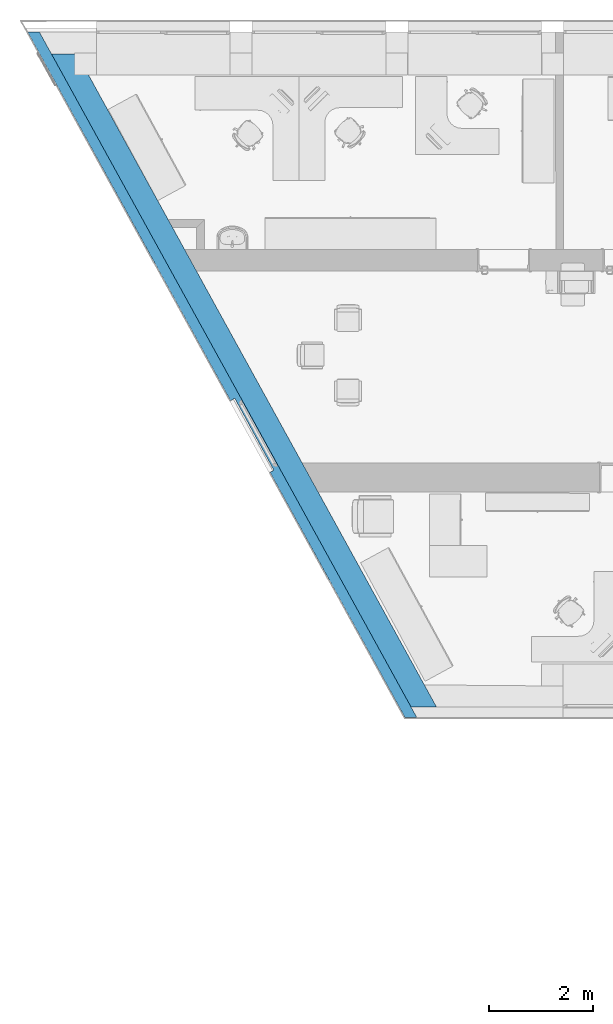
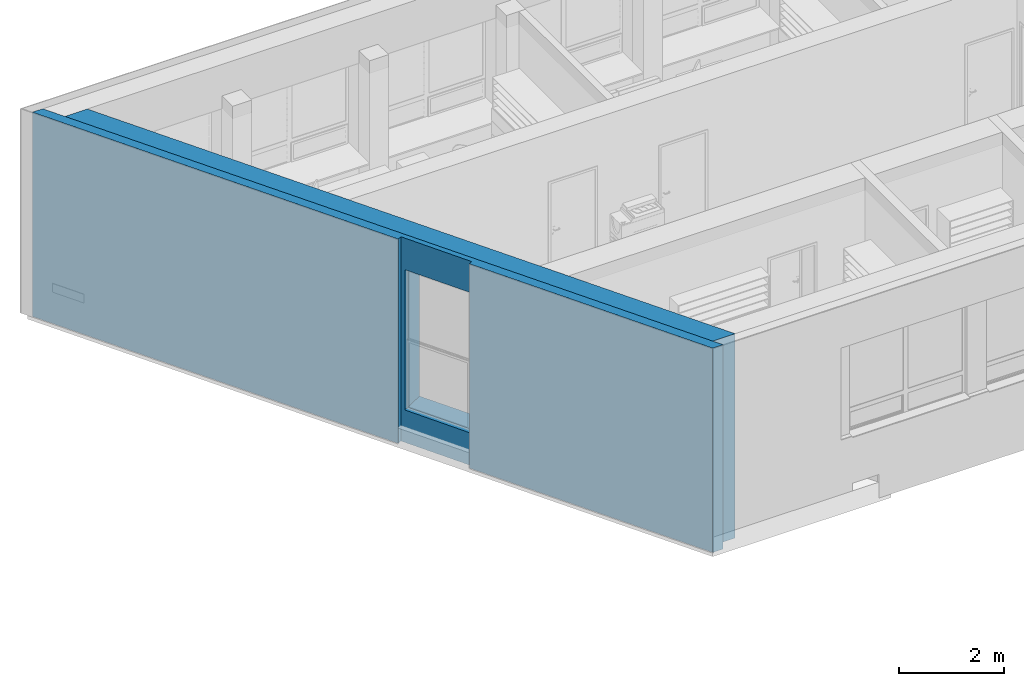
# One storey, part 103 of 194: 2 building element parts, 1 opening, 1 element without a shape of its own.
"""IFC2X3 building model written with IfcOpenShell, lengths in millimetres."""

from ifc_helpers import new_model, entity, si_unit, converted_unit, derived_unit, money_unit, direction, frame, origin_with_axes, origin_2d_with_axis, place, context, subcontext, project, spatial, polyline, rectangle, outline, extrude, boolean, faceted_brep, material, type_object, element, aggregate, save


model = new_model("IFC2X3")

# Units and contexts
model_context = context("Model", 3, precision=1e-05, world=origin_with_axes(), true_north=direction((0.0, 1.0)))
body_context = subcontext(model_context, "Body", "Model", "MODEL_VIEW")
ifc_project = project(units=[si_unit("LENGTHUNIT", "METRE", prefix="MILLI"), si_unit("AREAUNIT", "SQUARE_METRE"), si_unit("VOLUMEUNIT", "CUBIC_METRE"), converted_unit("PLANEANGLEUNIT", "DEGREE", entity("IfcPlaneAngleMeasure", 0.0174532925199), si_unit("PLANEANGLEUNIT", "RADIAN"), dimensions=[0, 0, 0, 0, 0, 0, 0]), si_unit("SOLIDANGLEUNIT", "STERADIAN"), money_unit("EUR"), converted_unit("TIMEUNIT", "Year", entity("IfcTimeMeasure", 31556926.0), si_unit("TIMEUNIT", "SECOND"), dimensions=[0, 0, 1, 0, 0, 0, 0]), si_unit("MASSUNIT", "GRAM", prefix="KILO"), si_unit("THERMODYNAMICTEMPERATUREUNIT", "DEGREE_CELSIUS"), si_unit("LUMINOUSINTENSITYUNIT", "LUMEN"), si_unit("ENERGYUNIT", "JOULE", prefix="MEGA"), derived_unit("THERMALCONDUCTANCEUNIT", [(si_unit("POWERUNIT", "WATT"), 1), (si_unit("LENGTHUNIT", "METRE"), -1), (si_unit("THERMODYNAMICTEMPERATUREUNIT", "KELVIN"), -1)]), derived_unit("SPECIFICHEATCAPACITYUNIT", [(si_unit("ENERGYUNIT", "JOULE"), 1), (si_unit("MASSUNIT", "GRAM", prefix="KILO"), -1), (si_unit("THERMODYNAMICTEMPERATUREUNIT", "KELVIN"), -1)]), derived_unit("MASSDENSITYUNIT", [(si_unit("MASSUNIT", "GRAM", prefix="KILO"), 1), (si_unit("VOLUMEUNIT", "CUBIC_METRE"), -1)])], contexts=[model_context])

# Site, building, storey
site_placement = place(None, origin_with_axes())
site = spatial("IfcSite", under=ifc_project, at=site_placement, Name="Site", CompositionType="ELEMENT")
building_placement = place(site_placement, origin_with_axes())
building = spatial("IfcBuilding", under=site, at=building_placement, Name="Building", CompositionType="ELEMENT")
storey_placement = place(building_placement, frame((0.0, 0.0, 3000.0), z_axis=(0.0, 0.0, 1.0), x_axis=(1.0, 0.0, 0.0)))
storey = spatial("IfcBuildingStorey", under=building, at=storey_placement, Name="2 KORRUS", CompositionType="ELEMENT", Elevation=3000.0)

# Wall, opening, building element parts
wall_type = type_object("IfcWallType", Name="VS4", PredefinedType="NOTDEFINED")
wall_placement = place(storey_placement, frame((-2936.56698537, 71913.6627221, -750.0), z_axis=(0.0, 0.0, 1.0), x_axis=(0.482322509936, -0.875993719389, 0.0)))
wall = element("IfcWall", 1, at=wall_placement, inside=storey, type_object=wall_type, Name="VS4")
opening_placement = place(wall_placement, frame((8815.80391524, 0.0, 750.0), z_axis=(0.0, 0.0, 1.0), x_axis=(1.0, 0.0, 0.0)))
element("IfcOpeningElement", 2, at=opening_placement, cuts=wall, Name="välisaken * Window 22", context=body_context, shape_type="SweptSolid", body=[
    extrude(rectangle(XDim=1450.0, YDim=3250.0, at=origin_2d_with_axis()), frame((0.0, -60.0000000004, 1625.0), z_axis=(0.0, 1.0, 0.0), x_axis=(1.0, 0.0, 0.0)), (0.0, 0.0, 1.0), 1140.0),
    extrude(rectangle(XDim=1450.0, YDim=3250.0, at=origin_2d_with_axis()), frame((-9.09494701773e-10, -60.0000000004, 1625.0), z_axis=(0.0, -1.0, 0.0), x_axis=(1.0, 0.0, 0.0)), (0.0, 0.0, 1.0), 810.0),
])
ifc_material_1 = material(Name="Tellis - Konstuktsioon")
building_element_part_1_placement = place(wall_placement, origin_with_axes())
building_element_part_1 = element("IfcBuildingElementPart", 3, at=building_element_part_1_placement, material=ifc_material_1, Name="Tellis - Konstuktsioon", context=body_context, shape_type="CSG", body=[
    boolean("DIFFERENCE", boolean("DIFFERENCE", boolean("DIFFERENCE", boolean("DIFFERENCE", boolean("DIFFERENCE", boolean("DIFFERENCE", boolean("DIFFERENCE", boolean("DIFFERENCE", extrude(outline(polyline([(-372.194405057, 4.54747350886e-10), (15338.8272067, 0.0), (15338.8272067, 430.0), (-372.194405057, 430.0), (-372.194405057, 4.54747350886e-10)])), origin_with_axes(), (0.0, 0.0, 1.0), 4730.0), faceted_brep([(490.81956551, -4.54747350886e-10, 4730.0), (727.470882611, 430.0, 4730.0), (-372.194405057, 430.0, 4730.0), (-372.194405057, 4.54747350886e-10, 4730.0), (727.470882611, 430.0, 0.0), (490.81956551, -4.54747350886e-10, 0.0), (-372.194405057, 430.0, 0.0), (-372.194405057, 4.54747350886e-10, 0.0)], [[[0, 1, 2, 3]], [[4, 1, 0, 5]], [[1, 4, 6, 2]], [[2, 6, 7, 3]], [[5, 0, 3, 7]], [[4, 5, 7, 6]]])), faceted_brep([(15087.7033668, 430.0, 0.0), (15087.7033668, 430.0, 4730.0), (15338.8272067, 430.0, 4730.0), (15338.8272067, 430.0, 0.0), (14851.0242707, 0.0, 4730.0), (14851.0242707, 0.0, 0.0), (15338.8272067, -4.54747350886e-10, 4730.0), (15338.8272067, -4.54747350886e-10, 0.0)], [[[0, 1, 2, 3]], [[4, 1, 0, 5]], [[1, 4, 6, 2]], [[6, 7, 3, 2]], [[5, 0, 3, 7]], [[4, 5, 7, 6]]])), faceted_brep([(-110.070380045, -200.0, 4730.0), (1.81898940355e-09, -4.54747350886e-10, 4730.0), (-372.194405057, 4.54747350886e-10, 4730.0), (-372.194405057, -199.999999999, 4730.0), (1.81898940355e-09, -4.54747350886e-10, 0.0), (-110.070380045, -200.0, 0.0), (-372.194405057, 4.54747350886e-10, 0.0), (-372.194405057, -199.999999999, 0.0)], [[[0, 1, 2, 3]], [[4, 1, 0, 5]], [[1, 4, 6, 2]], [[2, 6, 7, 3]], [[5, 0, 3, 7]], [[4, 5, 7, 6]]])), faceted_brep([(8001.29893789, -106.928908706, 4730.0), (8000.79505038, -200.0, 4730.0), (9574.61445916, -200.0, 4730.0), (9575.07221706, -115.449327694, 4730.0), (8001.29893789, -106.928908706, 0.0), (8000.79505038, -200.0, 0.0), (9574.61445916, -200.0, 0.0), (9575.07221706, -115.449327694, 0.0)], [[[0, 1, 2, 3]], [[1, 0, 4, 5]], [[6, 2, 1, 5]], [[3, 2, 6, 7]], [[0, 3, 7, 4]], [[7, 6, 5, 4]]])), faceted_brep([(15079.3186707, -4.54747350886e-10, 0.0), (15079.3186707, -4.54747350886e-10, 4730.0), (15338.8272067, -4.54747350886e-10, 4730.0), (15338.8272067, -4.54747350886e-10, 0.0), (14969.2353702, -199.999999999, 4730.0), (14969.2353702, -199.999999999, 0.0), (15338.8272067, -200.0, 4730.0), (15338.8272067, -200.0, 0.0)], [[[0, 1, 2, 3]], [[4, 1, 0, 5]], [[1, 4, 6, 2]], [[6, 7, 3, 2]], [[5, 0, 3, 7]], [[4, 5, 7, 6]]])), faceted_brep([(-349.365588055, -220.0, 4730.0), (-338.35855005, -200.0, 4730.0), (-372.194405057, -199.999999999, 4730.0), (-372.194405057, -219.999999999, 4730.0), (-338.35855005, -200.0, 0.0), (-349.365588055, -220.0, 0.0), (-372.194405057, -199.999999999, 0.0), (-372.194405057, -219.999999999, 0.0)], [[[0, 1, 2, 3]], [[4, 1, 0, 5]], [[1, 4, 6, 2]], [[2, 6, 7, 3]], [[5, 0, 3, 7]], [[4, 5, 7, 6]]])), faceted_brep([(9574.61445916, -200.0, 4730.0), (9574.61445916, -200.0, 0.0), (8000.79505038, -200.0, 0.0), (8000.79505038, -200.0, 4730.0), (9574.50617903, -220.0, 4730.0), (9574.50617903, -220.0, 0.0), (8000.68677025, -220.0, 0.0), (8000.68677025, -220.0, 4730.0)], [[[0, 1, 2, 3]], [[1, 0, 4, 5]], [[1, 5, 6, 2]], [[7, 3, 2, 6]], [[4, 0, 3, 7]], [[5, 4, 7, 6]]])), faceted_brep([(14992.0648102, -199.999999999, 0.0), (14992.0648102, -199.999999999, 4730.0), (15338.8272067, -200.0, 4730.0), (15338.8272067, -200.0, 0.0), (14981.0564801, -220.0, 4730.0), (14981.0564801, -220.0, 0.0), (15338.8272067, -219.999999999, 4730.0), (15338.8272067, -219.999999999, 0.0)], [[[0, 1, 2, 3]], [[4, 1, 0, 5]], [[1, 4, 6, 2]], [[6, 7, 3, 2]], [[5, 0, 3, 7]], [[4, 5, 7, 6]]])),
])
ifc_material_2 = material(Name="Soojustus - Plastik Kõva")
building_element_part_2_placement = place(wall_placement, origin_with_axes())
building_element_part_2 = element("IfcBuildingElementPart", 4, at=building_element_part_2_placement, material=ifc_material_2, Name="Soojustus - Plastik Kõva", context=body_context, shape_type="CSG", body=[
    boolean("DIFFERENCE", boolean("DIFFERENCE", boolean("DIFFERENCE", boolean("DIFFERENCE", boolean("DIFFERENCE", boolean("DIFFERENCE", boolean("DIFFERENCE", boolean("DIFFERENCE", extrude(outline(polyline([(-372.194405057, -200.0), (15338.8272067, -200.0), (15338.8272067, 0.0), (-372.194405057, 4.54747350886e-10), (-372.194405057, -200.0)])), origin_with_axes(), (0.0, 0.0, 1.0), 4730.0), faceted_brep([(490.81956551, -4.54747350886e-10, 4730.0), (727.470882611, 430.0, 4730.0), (-372.194405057, 430.0, 4730.0), (-372.194405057, 4.54747350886e-10, 4730.0), (727.470882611, 430.0, 0.0), (490.81956551, -4.54747350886e-10, 0.0), (-372.194405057, 430.0, 0.0), (-372.194405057, 4.54747350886e-10, 0.0)], [[[0, 1, 2, 3]], [[4, 1, 0, 5]], [[1, 4, 6, 2]], [[2, 6, 7, 3]], [[5, 0, 3, 7]], [[4, 5, 7, 6]]])), faceted_brep([(15087.7033668, 430.0, 0.0), (15087.7033668, 430.0, 4730.0), (15338.8272067, 430.0, 4730.0), (15338.8272067, 430.0, 0.0), (14851.0242707, 0.0, 4730.0), (14851.0242707, 0.0, 0.0), (15338.8272067, -4.54747350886e-10, 4730.0), (15338.8272067, -4.54747350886e-10, 0.0)], [[[0, 1, 2, 3]], [[4, 1, 0, 5]], [[1, 4, 6, 2]], [[6, 7, 3, 2]], [[5, 0, 3, 7]], [[4, 5, 7, 6]]])), faceted_brep([(-110.070380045, -200.0, 4730.0), (1.81898940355e-09, -4.54747350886e-10, 4730.0), (-372.194405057, 4.54747350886e-10, 4730.0), (-372.194405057, -199.999999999, 4730.0), (1.81898940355e-09, -4.54747350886e-10, 0.0), (-110.070380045, -200.0, 0.0), (-372.194405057, 4.54747350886e-10, 0.0), (-372.194405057, -199.999999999, 0.0)], [[[0, 1, 2, 3]], [[4, 1, 0, 5]], [[1, 4, 6, 2]], [[2, 6, 7, 3]], [[5, 0, 3, 7]], [[4, 5, 7, 6]]])), faceted_brep([(8001.29893789, -106.928908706, 4730.0), (8000.79505038, -200.0, 4730.0), (9574.61445916, -200.0, 4730.0), (9575.07221706, -115.449327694, 4730.0), (8001.29893789, -106.928908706, 0.0), (8000.79505038, -200.0, 0.0), (9574.61445916, -200.0, 0.0), (9575.07221706, -115.449327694, 0.0)], [[[0, 1, 2, 3]], [[1, 0, 4, 5]], [[6, 2, 1, 5]], [[3, 2, 6, 7]], [[0, 3, 7, 4]], [[7, 6, 5, 4]]])), faceted_brep([(15079.3186707, -4.54747350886e-10, 0.0), (15079.3186707, -4.54747350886e-10, 4730.0), (15338.8272067, -4.54747350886e-10, 4730.0), (15338.8272067, -4.54747350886e-10, 0.0), (14969.2353702, -199.999999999, 4730.0), (14969.2353702, -199.999999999, 0.0), (15338.8272067, -200.0, 4730.0), (15338.8272067, -200.0, 0.0)], [[[0, 1, 2, 3]], [[4, 1, 0, 5]], [[1, 4, 6, 2]], [[6, 7, 3, 2]], [[5, 0, 3, 7]], [[4, 5, 7, 6]]])), faceted_brep([(-349.365588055, -220.0, 4730.0), (-338.35855005, -200.0, 4730.0), (-372.194405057, -199.999999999, 4730.0), (-372.194405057, -219.999999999, 4730.0), (-338.35855005, -200.0, 0.0), (-349.365588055, -220.0, 0.0), (-372.194405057, -199.999999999, 0.0), (-372.194405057, -219.999999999, 0.0)], [[[0, 1, 2, 3]], [[4, 1, 0, 5]], [[1, 4, 6, 2]], [[2, 6, 7, 3]], [[5, 0, 3, 7]], [[4, 5, 7, 6]]])), faceted_brep([(9574.61445916, -200.0, 4730.0), (9574.61445916, -200.0, 0.0), (8000.79505038, -200.0, 0.0), (8000.79505038, -200.0, 4730.0), (9574.50617903, -220.0, 4730.0), (9574.50617903, -220.0, 0.0), (8000.68677025, -220.0, 0.0), (8000.68677025, -220.0, 4730.0)], [[[0, 1, 2, 3]], [[1, 0, 4, 5]], [[1, 5, 6, 2]], [[7, 3, 2, 6]], [[4, 0, 3, 7]], [[5, 4, 7, 6]]])), faceted_brep([(14992.0648102, -199.999999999, 0.0), (14992.0648102, -199.999999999, 4730.0), (15338.8272067, -200.0, 4730.0), (15338.8272067, -200.0, 0.0), (14981.0564801, -220.0, 4730.0), (14981.0564801, -220.0, 0.0), (15338.8272067, -219.999999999, 4730.0), (15338.8272067, -219.999999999, 0.0)], [[[0, 1, 2, 3]], [[4, 1, 0, 5]], [[1, 4, 6, 2]], [[6, 7, 3, 2]], [[5, 0, 3, 7]], [[4, 5, 7, 6]]])),
])
aggregate(wall, [building_element_part_1, building_element_part_2])

save(model, "model.ifc")
